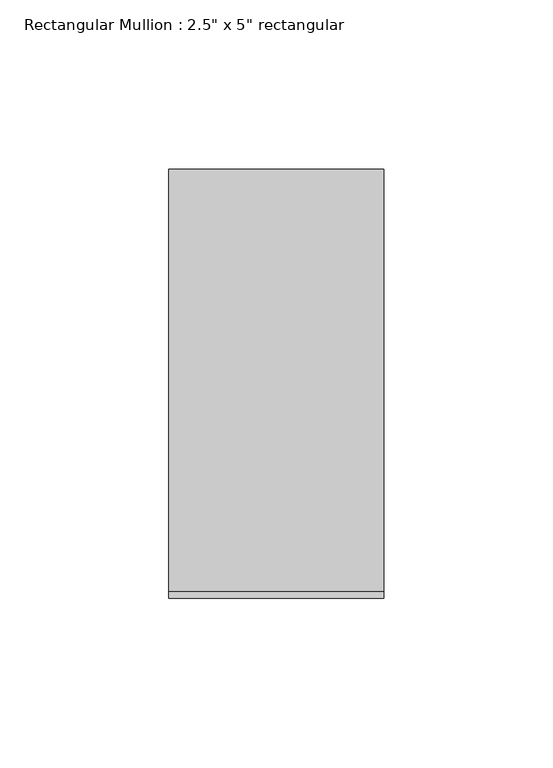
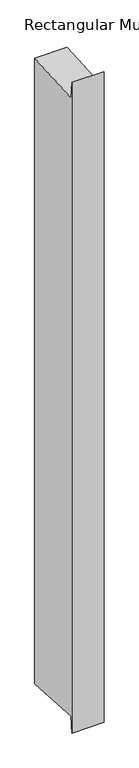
"""IFC4 building model written with IfcOpenShell, lengths in millimetres: member geometry."""

from ifc_helpers import new_model, si_unit, frame, origin, place, context, project, spatial, polyline, outline, extrude, source, transform, mapped, element, save


def member_ed550812(model_context):
    return source(origin(), model_context, "Body", "SweptSolid", [
        extrude(outline(polyline([(-63.5, 29.9084196), (-61.5532406, -3.6267023), (63.5, 3.6328081), (63.5, -1303.726264), (-61.5532406, -1296.4667536), (-63.5, -1330.0018755), (-63.5, 29.9084196)])), frame((-63.5, 0.0, 0.0), z_axis=(1.0, 0.0, 0.0), x_axis=(0.0, 1.0, 0.0)), (0.0, 0.0, 1.0), 63.5),
    ])


if __name__ == "__main__":
    model = new_model("IFC4")
    model_context = context("Model", 3, world=origin())
    ifc_project = project(units=[si_unit("LENGTHUNIT", "METRE", prefix="MILLI")], contexts=[model_context])
    site = spatial("IfcSite", under=ifc_project)
    building = spatial("IfcBuilding", under=site)
    placement = place(None, origin())
    member_shape = member_ed550812(model_context)
    element("IfcMember", 1, ObjectType="Rectangular Mullion : 2.5\" x 5\" rectangular", at=placement, inside=building, context=model_context, shape_type="MappedRepresentation", body=[
        mapped(member_shape, transform((0.0, 0.0, 0.0), x_axis=(1.0, 0.0, 0.0), y_axis=(0.0, 1.0, 0.0), z_axis=(0.0, 0.0, 1.0))),
    ])
    save(model, "model.ifc")
